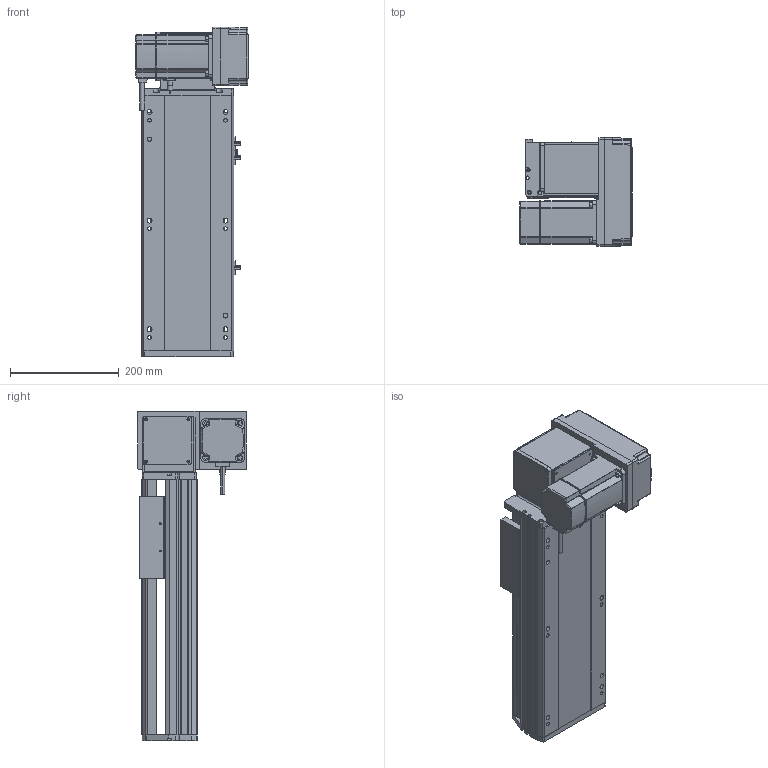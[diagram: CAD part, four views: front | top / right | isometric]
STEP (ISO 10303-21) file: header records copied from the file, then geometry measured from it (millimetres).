
FILE_DESCRIPTION (( 'STEP AP214' ), '1' );
FILE_NAME ('RTB17S-XX-200-RM-M75-C4.STEP', '2025-12-12T02:00:02', ( '' ), ( '' ), 'SwSTEP 2.0', 'SolidWorks 2018', '' );
FILE_SCHEMA (( 'AUTOMOTIVE_DESIGN' ));
Length unit declared in the file: millimetre
Products named in the file (15): EE672^RTB17S-XX-XX-RM-M75-C4; RTB17-R-011菁釱^RTB17S-XX-XX-RM-M75-C4; 750W萇儂^RTB17S-XX-XX-RM-M75-C4; RTB17S-RM-々湍釱蚾饜-750W^RTB17S-XX-XX-RM-M75-C4; RTB22S-GY-005P^RTB17S-RM-々湍釱蚾饜-750W_RTB17S-XX-XX-RM-M75-C4; RTB17S-L-004-賑釱^RTB17S-賑釱_RTB17S-XX-XX-RM-M75-C4; RTB17S-XX-200-RM-M75-C4; RTB22S-GY-018P^RTB17S-RM-々湍釱蚾饜-750W_RTB17S-XX-XX-RM-M75-C4; RTB22S-GY-017P^RTB17S-RM-々湍釱蚾饜-750W_RTB17S-XX-XX-RM-M75-C4; RTB17S-L-014-T20-P75--々湍釱^RTB17S-RM-々湍釱蚾饜-750W_RTB17S-XX-XX-RM-M75-C4; RTB17S-L-007奻裔^RTB17S-XX-XX-RM-M75-C4; RTB17S-L-001-耜醱啣^RTB17S-XX-XX-RM-M75-C4; RTB17S-賑釱^RTB17S-XX-XX-RM-M75-C4; RTH13-BL-012覜茼え俋离^RTB17S-賑釱_RTB17S-XX-XX-RM-M75-C4; RTB22S-GY-008-M75--萇儂啣^RTB17S-RM-々湍釱蚾饜-750W_RTB17S-XX-XX-RM-M75-C4
Assembly tree (17 placements, depth 3):
  RTB17S-XX-200-RM-M75-C4
    RTB17-R-011菁釱^RTB17S-XX-XX-RM-M75-C4
    EE672^RTB17S-XX-XX-RM-M75-C4  x3
    RTB17S-L-001-耜醱啣^RTB17S-XX-XX-RM-M75-C4
    RTB17S-賑釱^RTB17S-XX-XX-RM-M75-C4
      RTB17S-L-004-賑釱^RTB17S-賑釱_RTB17S-XX-XX-RM-M75-C4
      RTH13-BL-012覜茼え俋离^RTB17S-賑釱_RTB17S-XX-XX-RM-M75-C4
    RTB17S-L-007奻裔^RTB17S-XX-XX-RM-M75-C4
    750W萇儂^RTB17S-XX-XX-RM-M75-C4
    RTB17S-RM-々湍釱蚾饜-750W^RTB17S-XX-XX-RM-M75-C4
      RTB17S-L-014-T20-P75--々湍釱^RTB17S-RM-々湍釱蚾饜-750W_RTB17S-XX-XX-RM-M75-C4
      RTB22S-GY-005P^RTB17S-RM-々湍釱蚾饜-750W_RTB17S-XX-XX-RM-M75-C4
      RTB22S-GY-017P^RTB17S-RM-々湍釱蚾饜-750W_RTB17S-XX-XX-RM-M75-C4  x2
      RTB22S-GY-008-M75--萇儂啣^RTB17S-RM-々湍釱蚾饜-750W_RTB17S-XX-XX-RM-M75-C4
      RTB22S-GY-018P^RTB17S-RM-々湍釱蚾饜-750W_RTB17S-XX-XX-RM-M75-C4
Bounding box: 207.4 x 200 x 607.5 mm (x, y, z)
Volume: 7202833.1 mm3; surface area: 1087356.4 mm2
Topology: 17 solids, 17 shells, 2025 faces, 5566 edges, 3590 vertices
Faces by surface type: plane 962, cylinder 647, bspline 294, cone 110, sphere 8, torus 4
Entity records: 55030 total; most frequent: CARTESIAN_POINT 16030, ORIENTED_EDGE 7976, DIRECTION 7502, EDGE_CURVE 3988, AXIS2_PLACEMENT_3D 2610, VERTEX_POINT 2594, VECTOR 2282, LINE 2282
